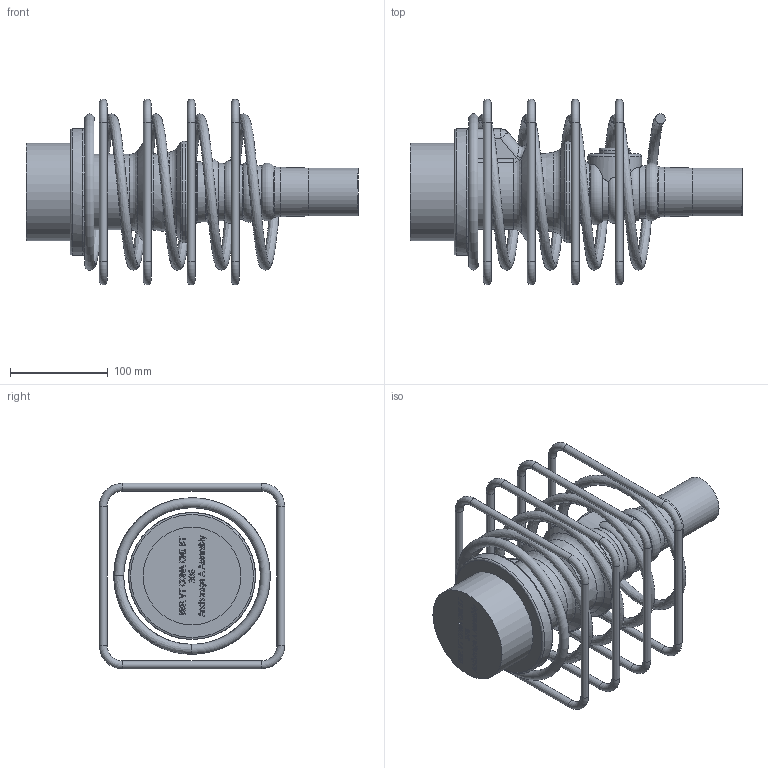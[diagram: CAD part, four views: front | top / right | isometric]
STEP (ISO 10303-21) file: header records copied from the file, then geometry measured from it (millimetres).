
FILE_DESCRIPTION(/* description */ (''),/* implementation_level */ '2;1');
FILE_NAME(/* name */ 'Z:\04 Publications\05 Give-out\BBR\6_3D_Models\BBR VT CONA CMI\BBR VT CONA CMI BT\00306\BBR VT CONA CMI BT 306_Anchorage A Assembly_CS-34,28.stp',/* time_stamp */ '2017-05-04T16:05:58+02:00',/* author */ ('IP'),/* organization */ (''),/* preprocessor_version */ 'ST-DEVELOPER v16.1',/* originating_system */ 'Autodesk Inventor 2016',/* authorisation */ '');
FILE_SCHEMA (('AUTOMOTIVE_DESIGN { 1 0 10303 214 3 1 1 }'));
Length unit declared in the file: millimetre
Products named in the file (1): BBR VT CONA CMI BT 306_Anchorage A Assembly_CS-34,28
Bounding box: 339.84 x 190 x 190 mm (x, y, z)
Volume: 1962383.3 mm3; surface area: 261372.3 mm2
Topology: 6 solids, 6 shells, 734 faces, 1922 edges, 1246 vertices
Faces by surface type: bspline 329, plane 315, torus 49, cylinder 32, cone 9
Full cylindrical faces by diameter (mm): 8 x16, 32 x1, 49 x1, 55 x1, 100 x1, 104 x2, 130 x1
Entity records: 27349 total; most frequent: CARTESIAN_POINT 11002, ORIENTED_EDGE 3696, DIRECTION 2148, EDGE_CURVE 1848, VERTEX_POINT 1239, LINE 1050, VECTOR 1050, EDGE_LOOP 855
